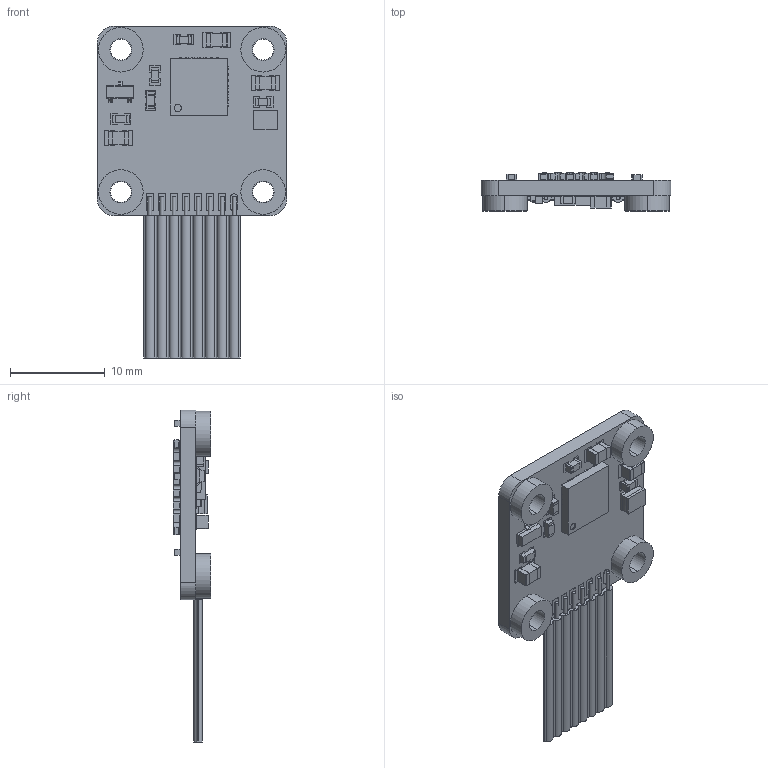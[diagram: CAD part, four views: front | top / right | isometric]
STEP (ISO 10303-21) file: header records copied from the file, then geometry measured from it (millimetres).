
FILE_DESCRIPTION (( 'STEP AP214' ), '1' );
FILE_NAME ('010482-EP220A_9201.STEP', '2019-11-05T16:41:20', ( '' ), ( '' ), 'SwSTEP 2.0', 'SolidWorks 2018', '' );
FILE_SCHEMA (( 'AUTOMOTIVE_DESIGN' ));
Length unit declared in the file: millimetre
Products named in the file (19): 010482-PM001A-Encodeur.SLDPRT_D‚faut; 010482-M200A_bloc_absolu_Version9201; PinsArrayTB.stp; Entretoise_9913-062_D‚faut; c0603_HYPAD_D‚faut; 010482-P001A-Encodeur_PCB_D‚faut; Body.stp; Cable_plat_1,27:8x15mmx2mm; PinsArrayLR.stp; QFN28_6x6_065_D‚faut; sot23_DＧaut; ThermalPin.stp; 010482-P001A-Globtop_D‚faut; c0402_HYPAD_Flex; c0805_HYPAD_D‚faut; dsPIC33EV128GM102-I_MM.stp; 010482-EP220A_9201; vls252012hbx-1; r0603_HYPAD_D‚faut
Assembly tree (34 placements, depth 4):
  010482-EP220A_9201
    010482-M200A_bloc_absolu_Version9201
    c0402_HYPAD_Flex  x8
    010482-PM001A-Encodeur.SLDPRT_D‚faut
      010482-P001A-Encodeur_PCB_D‚faut
      010482-P001A-Globtop_D‚faut  x2
    c0805_HYPAD_D‚faut  x3
    c0603_HYPAD_D‚faut  x3
    r0603_HYPAD_D‚faut  x2
    vls252012hbx-1
    sot23_DＧaut
    QFN28_6x6_065_D‚faut
      dsPIC33EV128GM102-I_MM.stp
        Body.stp
        ThermalPin.stp
        PinsArrayLR.stp
        PinsArrayTB.stp
    Entretoise_9913-062_D‚faut  x4
    Cable_plat_1,27:8x15mmx2mm
Bounding box: 20 x 3.98 x 35 mm (x, y, z)
Volume: 874.1 mm3; surface area: 2160.4 mm2
Topology: 65 solids, 65 shells, 1714 faces, 4125 edges, 2538 vertices
Faces by surface type: plane 1066, cylinder 502, sphere 112, bspline 26, cone 8
Entity records: 41736 total; most frequent: CARTESIAN_POINT 7586, DIRECTION 5491, ORIENTED_EDGE 5394, EDGE_CURVE 2697, LINE 2005, VECTOR 2005, VERTEX_POINT 1750, AXIS2_PLACEMENT_3D 1743
